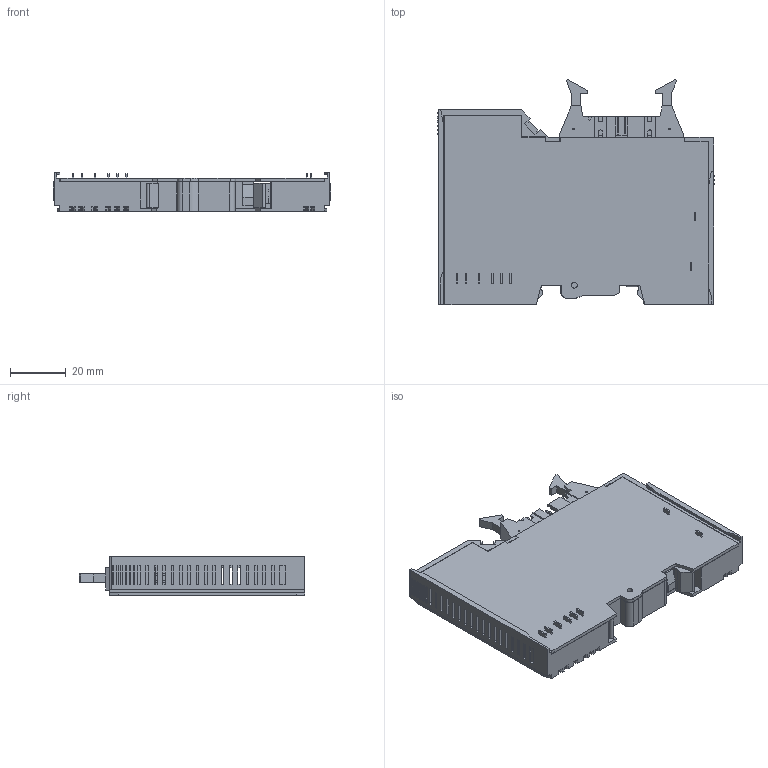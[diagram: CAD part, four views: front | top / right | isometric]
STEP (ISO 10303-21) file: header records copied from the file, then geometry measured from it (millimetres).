
FILE_DESCRIPTION((''),'2;1');
FILE_NAME('FNIO_16P_ASM','2009-05-27T',('冠瓤柳'),(''),'PRO/ENGINEER BY PARAMETRIC TECHNOLOGY CORPORATION, 2006170','PRO/ENGINEER BY PARAMETRIC TECHNOLOGY CORPORATION, 2006170','');
FILE_SCHEMA(('CONFIG_CONTROL_DESIGN'));
Length unit declared in the file: millimetre
Products named in the file (8): FNIO_1_16P_IO_BODY; FNIO_1_16P_IO_COVER; FNIO_1_16P_IO_HRS_20P_CONNECTOR; FNIO_1_DINRAIL_LOCKER_LEVER; FNIO_1_DINRAIL_LOCKER_L; FNIO_1_FG_CONTACTOR_XX; FNIO1_8PT_WINDOW_LABEL; FNIO_16P_ASM
Assembly tree (8 placements, depth 2):
  FNIO_16P_ASM
    FNIO_1_16P_IO_BODY
    FNIO_1_16P_IO_COVER
    FNIO_1_16P_IO_HRS_20P_CONNECTOR
    FNIO_1_DINRAIL_LOCKER_LEVER
    FNIO_1_DINRAIL_LOCKER_L  x2
    FNIO_1_FG_CONTACTOR_XX
    FNIO1_8PT_WINDOW_LABEL
Bounding box: 99.81 x 80.93 x 14 mm (x, y, z)
Volume: 26038 mm3; surface area: 41142 mm2
Topology: 8 solids, 8 shells, 1290 faces, 3637 edges, 2385 vertices
Faces by surface type: plane 1169, cylinder 121
Entity records: 41025 total; most frequent: CARTESIAN_POINT 7272, ORIENTED_EDGE 7220, DIRECTION 6471, EDGE_CURVE 3610, VECTOR 3339, LINE 3339, VERTEX_POINT 2367, AXIS2_PLACEMENT_3D 1566
